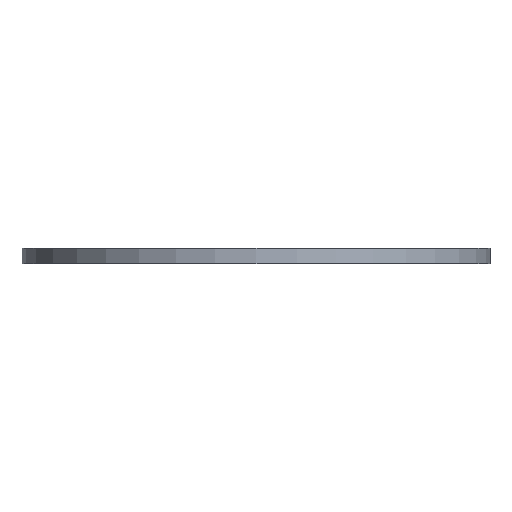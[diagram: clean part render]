
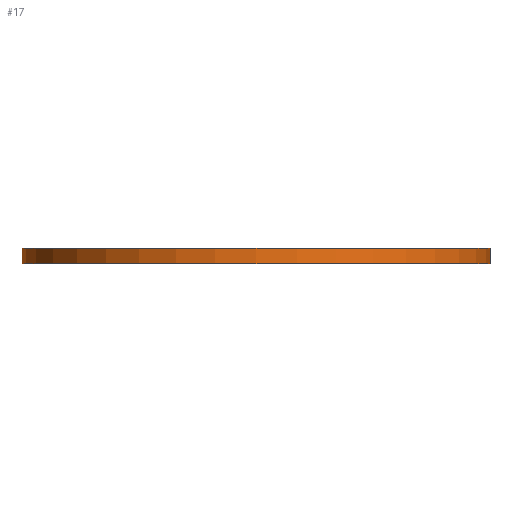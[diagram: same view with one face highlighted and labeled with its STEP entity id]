
A CAD part, front view. The second image highlights one B-rep face of the part: STEP entity #17.
In plain terms, the highlighted cylindrical face has radius 13.14 mm (diameter 26.28 mm), a full revolution.
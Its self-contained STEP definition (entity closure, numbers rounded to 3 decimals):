
#17 = ADVANCED_FACE('',(#18),#45,.T.);
#18 = FACE_BOUND('',#19,.T.);
#19 = EDGE_LOOP('',(#20,#29,#37,#44));
#20 = ORIENTED_EDGE('',*,*,#21,.F.);
#21 = EDGE_CURVE('',#22,#22,#24,.T.);
#22 = VERTEX_POINT('',#23);
#23 = CARTESIAN_POINT('',(13.14,0.,-4.25));
#24 = CIRCLE('',#25,13.14);
#25 = AXIS2_PLACEMENT_3D('',#26,#27,#28);
#26 = CARTESIAN_POINT('',(0.,0.,-4.25));
#27 = DIRECTION('',(0.,0.,1.));
#28 = DIRECTION('',(1.,0.,0.));
#29 = ORIENTED_EDGE('',*,*,#30,.F.);
#30 = EDGE_CURVE('',#31,#22,#33,.T.);
#31 = VERTEX_POINT('',#32);
#32 = CARTESIAN_POINT('',(13.14,0.,-5.1));
#33 = LINE('',#34,#35);
#34 = CARTESIAN_POINT('',(13.14,0.,-5.1));
#35 = VECTOR('',#36,1.);
#36 = DIRECTION('',(0.,0.,1.));
#37 = ORIENTED_EDGE('',*,*,#38,.T.);
#38 = EDGE_CURVE('',#31,#31,#39,.T.);
#39 = CIRCLE('',#40,13.14);
#40 = AXIS2_PLACEMENT_3D('',#41,#42,#43);
#41 = CARTESIAN_POINT('',(0.,0.,-5.1));
#42 = DIRECTION('',(0.,0.,1.));
#43 = DIRECTION('',(1.,0.,0.));
#44 = ORIENTED_EDGE('',*,*,#30,.T.);
#45 = CYLINDRICAL_SURFACE('',#46,13.14);
#46 = AXIS2_PLACEMENT_3D('',#47,#48,#49);
#47 = CARTESIAN_POINT('',(0.,0.,-5.1));
#48 = DIRECTION('',(0.,0.,1.));
#49 = DIRECTION('',(1.,0.,0.));
